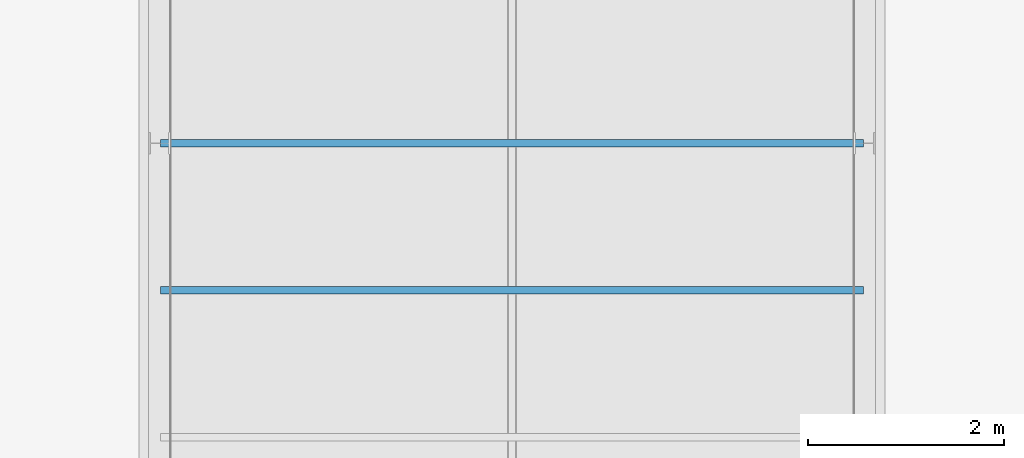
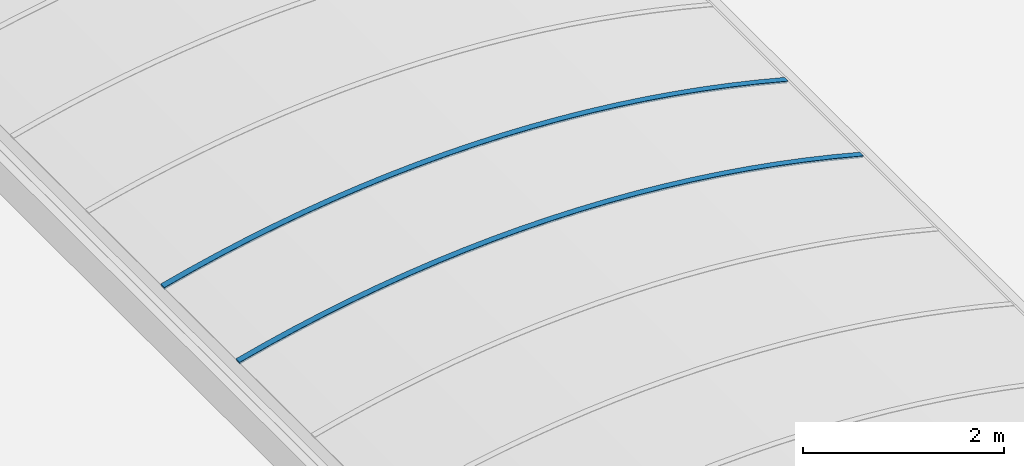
# One storey, part 54 of 81: 2 beams.
"""IFC2X3 building model written with IfcOpenShell, lengths in millimetres."""

from ifc_helpers import new_model, entity, si_unit, converted_unit, derived_unit, money_unit, direction, frame, origin_with_axes, place, context, subcontext, project, spatial, faceted_brep, material, material_list, type_object, element, save


model = new_model("IFC2X3")

# Units and contexts
model_context = context("Model", 3, precision=0.01, world=origin_with_axes(), true_north=direction((0.0, 1.0)))
body_context = subcontext(model_context, "Body", "Model", "MODEL_VIEW")
ifc_project = project(units=[si_unit("LENGTHUNIT", "METRE", prefix="MILLI"), si_unit("AREAUNIT", "SQUARE_METRE"), si_unit("VOLUMEUNIT", "CUBIC_METRE"), converted_unit("PLANEANGLEUNIT", "DEGREE", entity("IfcPlaneAngleMeasure", 0.0174532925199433), si_unit("PLANEANGLEUNIT", "RADIAN"), dimensions=[0, 0, 0, 0, 0, 0, 0]), money_unit("EUR"), converted_unit("TIMEUNIT", "Year", entity("IfcTimeMeasure", 31557600.0), si_unit("TIMEUNIT", "SECOND"), dimensions=[0, 0, 1, 0, 0, 0, 0]), si_unit("MASSUNIT", "GRAM", prefix="KILO"), si_unit("THERMODYNAMICTEMPERATUREUNIT", "DEGREE_CELSIUS"), si_unit("LUMINOUSINTENSITYUNIT", "LUMEN"), si_unit("ENERGYUNIT", "JOULE", prefix="MEGA"), derived_unit("THERMALCONDUCTANCEUNIT", [(si_unit("POWERUNIT", "WATT"), 1), (si_unit("LENGTHUNIT", "METRE"), -1), (si_unit("THERMODYNAMICTEMPERATUREUNIT", "KELVIN"), -1)]), derived_unit("SPECIFICHEATCAPACITYUNIT", [(si_unit("ENERGYUNIT", "JOULE"), 1), (si_unit("MASSUNIT", "GRAM", prefix="KILO"), -1), (si_unit("THERMODYNAMICTEMPERATUREUNIT", "KELVIN"), -1)]), derived_unit("MASSDENSITYUNIT", [(si_unit("MASSUNIT", "GRAM", prefix="KILO"), 1), (si_unit("VOLUMEUNIT", "CUBIC_METRE"), -1)])], contexts=[model_context])

# Site, building, storey
site_placement = place(None, origin_with_axes())
site = spatial("IfcSite", under=ifc_project, at=site_placement, Name="Site", CompositionType="ELEMENT")
building_placement = place(site_placement, origin_with_axes())
building = spatial("IfcBuilding", under=site, at=building_placement, Name="Naam gebouw", CompositionType="ELEMENT")
storey_placement = place(building_placement, frame((0.0, 0.0, 15320.0), z_axis=(0.0, 0.0, 1.0), x_axis=(1.0, 0.0, 0.0)))
storey = spatial("IfcBuildingStorey", under=building, at=storey_placement, Name="01 dak", CompositionType="ELEMENT", Elevation=15320.0)

# Beams
ifc_material = material(Name="Metaal - Aluminium AFW")
ifc_material_list = material_list([ifc_material, ifc_material])
beam_type = type_object("IfcBeamType", Name="lichtstraat polycarbonaat (constructie) 7420 x 670", PredefinedType="BEAM")
beam_1_placement = place(storey_placement, frame((105300.0, 76362.50000000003, 559.9999999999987), z_axis=(0.0, 0.0, 1.0), x_axis=(1.0, 0.0, 0.0)))
element("IfcBeam", 1, at=beam_1_placement, inside=storey, type_object=beam_type, material=ifc_material_list, Name="Plafondafwerking 3", ObjectType="BEAM", context=body_context, shape_type="Brep", body=[
    faceted_brep([(-3532.999999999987, 75.00000000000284, 192.1385480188), (-3532.999999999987, 0.0, 192.1385480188), (-3582.999999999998, 0.0, 179.000000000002), (-3582.999999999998, 75.00000000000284, 179.000000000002), (-3527.999999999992, 75.00000000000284, 193.4415530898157), (-3527.999999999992, 0.0, 193.4415530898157), (-2943.44844329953, 0.0, 337.3385317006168), (-3264.746952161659, 0.0, 264.2761146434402), (-3584.237010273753, 0.0, 183.6724462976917), (-3213.32287812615, 0.0, 271.5053933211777), (-2896.922437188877, 0.0, 342.2614189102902), (-2578.96836412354, 0.0, 405.6716830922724), (-2259.631179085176, 0.0, 461.7021786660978), (-1939.082143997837, 0.0, 510.3228562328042), (-1617.493170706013, 0.0, 551.5076403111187), (-1295.036728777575, 0.0, 585.2344433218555), (-971.8857530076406, 0.0, 611.485177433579), (-648.2135506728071, 0.0, 630.2457642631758), (-324.1937085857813, 0.0, 641.5061424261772), (0.0, 0.0, 645.2602729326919), (324.1937085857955, 0.0, 641.5061424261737), (648.2135506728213, 0.0, 630.2457642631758), (971.8857530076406, 0.0, 611.4851774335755), (1295.036728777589, 0.0, 585.2344433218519), (1617.493170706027, 0.0, 551.5076403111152), (1939.082143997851, 0.0, 510.3228562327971), (2259.63117908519, 0.0, 461.7021786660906), (2578.96836412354, 0.0, 405.6716830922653), (2896.922437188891, 0.0, 342.2614189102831), (3213.322878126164, 0.0, 271.5053933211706), (3528.000000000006, 0.0, 193.4415530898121), (3528.000000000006, 0.0, 194.0000000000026), (3533.000000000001, 0.0, 194.0000000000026), (3533.000000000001, 0.0, 192.1385480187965), (3582.999999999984, 0.0, 179.000000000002), (3584.237010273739, 0.0, 183.6724462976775), (3264.746952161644, 0.0, 264.2761146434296), (2943.448443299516, 0.0, 337.3385317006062), (2620.51946150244, 0.0, 402.8192257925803), (2296.138887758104, 0.0, 460.6819250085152), (1970.486407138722, 0.0, 510.8945772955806), (1643.742409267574, 0.0, 553.4293682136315), (1316.087888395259, 0.0, 588.2627363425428), (987.7043431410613, 0.0, 615.3753863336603), (658.7736759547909, 0.0, 634.7522995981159), (329.4780923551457, 0.0, 646.3827426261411), (0.0, 0.0, 650.2602729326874), (-329.4780923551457, 0.0, 646.3827426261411), (-658.7736759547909, 0.0, 634.7522995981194), (-987.7043431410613, 0.0, 615.375386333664), (-1316.087888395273, 0.0, 588.2627363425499), (-1643.742409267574, 0.0, 553.4293682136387), (-1970.486407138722, 0.0, 510.8945772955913), (-2296.138887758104, 0.0, 460.6819250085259), (-2620.519461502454, 0.0, 402.8192257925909), (-3584.237010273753, 75.00000000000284, 183.6724462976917), (-3213.32287812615, 75.00000000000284, 271.5053933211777), (-3264.746952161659, 75.00000000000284, 264.2761146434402), (-2943.44844329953, 75.00000000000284, 337.3385317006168), (-2620.519461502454, 75.00000000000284, 402.8192257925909), (-2296.138887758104, 75.00000000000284, 460.6819250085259), (-1970.486407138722, 75.00000000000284, 510.8945772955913), (-1643.742409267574, 75.00000000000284, 553.4293682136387), (-1316.087888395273, 75.00000000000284, 588.2627363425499), (-987.7043431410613, 75.00000000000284, 615.375386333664), (-658.7736759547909, 75.00000000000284, 634.7522995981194), (-329.4780923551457, 75.00000000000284, 646.3827426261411), (0.0, 75.00000000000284, 650.2602729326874), (329.4780923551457, 75.00000000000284, 646.3827426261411), (658.7736759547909, 75.00000000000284, 634.7522995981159), (987.7043431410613, 75.00000000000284, 615.3753863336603), (1316.087888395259, 75.00000000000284, 588.2627363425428), (1643.742409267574, 75.00000000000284, 553.4293682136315), (1970.486407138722, 75.00000000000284, 510.8945772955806), (2296.138887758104, 75.00000000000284, 460.6819250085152), (2620.51946150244, 75.00000000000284, 402.8192257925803), (2943.448443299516, 75.00000000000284, 337.3385317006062), (3264.746952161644, 75.00000000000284, 264.2761146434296), (3584.237010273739, 75.00000000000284, 183.6724462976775), (3582.999999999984, 75.00000000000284, 179.000000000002), (3533.000000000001, 75.00000000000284, 192.1385480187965), (3533.000000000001, 75.00000000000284, 194.0000000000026), (3528.000000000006, 75.00000000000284, 194.0000000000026), (3528.000000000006, 75.00000000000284, 193.4415530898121), (3213.322878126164, 75.00000000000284, 271.5053933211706), (2896.922437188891, 75.00000000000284, 342.2614189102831), (2578.96836412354, 75.00000000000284, 405.6716830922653), (2259.63117908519, 75.00000000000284, 461.7021786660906), (1939.082143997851, 75.00000000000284, 510.3228562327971), (1617.493170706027, 75.00000000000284, 551.5076403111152), (1295.036728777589, 75.00000000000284, 585.2344433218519), (971.8857530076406, 75.00000000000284, 611.4851774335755), (648.2135506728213, 75.00000000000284, 630.2457642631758), (324.1937085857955, 75.00000000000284, 641.5061424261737), (0.0, 75.00000000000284, 645.2602729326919), (-324.1937085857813, 75.00000000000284, 641.5061424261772), (-648.2135506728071, 75.00000000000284, 630.2457642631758), (-971.8857530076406, 75.00000000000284, 611.485177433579), (-1295.036728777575, 75.00000000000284, 585.2344433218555), (-1617.493170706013, 75.00000000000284, 551.5076403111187), (-1939.082143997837, 75.00000000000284, 510.3228562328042), (-2259.631179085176, 75.00000000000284, 461.7021786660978), (-2578.96836412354, 75.00000000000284, 405.6716830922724), (-2896.922437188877, 75.00000000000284, 342.2614189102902)], [[[0, 1, 2, 3]], [[4, 5, 1, 0]], [[6, 7, 8, 2, 1, 5, 9, 10, 11, 12, 13, 14, 15, 16, 17, 18, 19, 20, 21, 22, 23, 24, 25, 26, 27, 28, 29, 30, 31, 32, 33, 34, 35, 36, 37, 38, 39, 40, 41, 42, 43, 44, 45, 46, 47, 48, 49, 50, 51, 52, 53, 54]], [[3, 2, 8, 55]], [[56, 4, 0, 3, 55, 57, 58, 59, 60, 61, 62, 63, 64, 65, 66, 67, 68, 69, 70, 71, 72, 73, 74, 75, 76, 77, 78, 79, 80, 81, 82, 83, 84, 85, 86, 87, 88, 89, 90, 91, 92, 93, 94, 95, 96, 97, 98, 99, 100, 101, 102, 103]], [[56, 9, 5, 4]], [[57, 7, 6, 58]], [[55, 8, 7, 57]], [[103, 10, 9, 56]], [[102, 11, 10, 103]], [[101, 12, 11, 102]], [[100, 13, 12, 101]], [[99, 14, 13, 100]], [[98, 15, 14, 99]], [[97, 16, 15, 98]], [[96, 17, 16, 97]], [[95, 18, 17, 96]], [[94, 19, 18, 95]], [[93, 20, 19, 94]], [[92, 21, 20, 93]], [[91, 22, 21, 92]], [[90, 23, 22, 91]], [[89, 24, 23, 90]], [[88, 25, 24, 89]], [[87, 26, 25, 88]], [[86, 27, 26, 87]], [[85, 28, 27, 86]], [[84, 29, 28, 85]], [[83, 30, 29, 84]], [[82, 31, 30, 83]], [[81, 32, 31, 82]], [[80, 33, 32, 81]], [[79, 34, 33, 80]], [[78, 35, 34, 79]], [[77, 36, 35, 78]], [[76, 37, 36, 77]], [[75, 38, 37, 76]], [[74, 39, 38, 75]], [[73, 40, 39, 74]], [[72, 41, 40, 73]], [[71, 42, 41, 72]], [[70, 43, 42, 71]], [[69, 44, 43, 70]], [[68, 45, 44, 69]], [[67, 46, 45, 68]], [[66, 47, 46, 67]], [[65, 48, 47, 66]], [[64, 49, 48, 65]], [[63, 50, 49, 64]], [[62, 51, 50, 63]], [[61, 52, 51, 62]], [[60, 53, 52, 61]], [[59, 54, 53, 60]], [[58, 6, 54, 59]]]),
    faceted_brep([(3269.271727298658, 75.00000000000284, 283.190243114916), (2947.542627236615, 75.00000000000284, 356.4574241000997), (2947.542627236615, 0.0, 356.4574241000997), (3269.271727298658, 0.0, 283.190243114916), (3589.184752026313, 75.00000000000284, 202.3611008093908), (3587.947861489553, 75.00000000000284, 197.6891067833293), (3528.000000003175, 75.00000000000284, 213.4415530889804), (3213.322878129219, 75.00000000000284, 291.505393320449), (2896.922437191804, 75.00000000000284, 362.2614189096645), (2578.968364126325, 75.00000000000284, 425.6716830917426), (2259.631179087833, 75.00000000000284, 481.7021786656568), (1939.082144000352, 75.00000000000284, 530.3228562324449), (1617.493170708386, 75.00000000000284, 571.5076403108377), (1295.036728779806, 75.00000000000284, 605.2344433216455), (971.8857530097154, 75.00000000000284, 631.4851774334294), (648.2135506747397, 75.00000000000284, 650.2457642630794), (324.1937085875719, 75.00000000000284, 661.5061424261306), (1.63424829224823e-09, 75.00000000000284, 665.2602729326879), (-324.1937085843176, 75.00000000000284, 661.5061424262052), (-648.2135506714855, 75.00000000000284, 650.2457642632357), (-971.8857530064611, 75.00000000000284, 631.4851774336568), (-1295.036728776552, 75.00000000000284, 605.2344433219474), (-1617.493170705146, 75.00000000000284, 571.5076403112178), (-1939.082143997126, 75.00000000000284, 530.3228562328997), (-2259.631179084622, 75.00000000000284, 481.7021786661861), (-2578.968364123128, 75.00000000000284, 425.6716830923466), (-2896.922437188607, 75.00000000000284, 362.2614189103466), (-3213.322878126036, 75.00000000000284, 291.5053933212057), (-3528.00000000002, 75.00000000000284, 213.4415530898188), (-3533.000000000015, 75.00000000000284, 212.1385480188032), (-3587.947861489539, 75.00000000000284, 197.6891067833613), (-3589.184752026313, 75.00000000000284, 202.3611008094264), (-3269.271727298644, 75.00000000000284, 283.1902431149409), (-2947.542627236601, 75.00000000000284, 356.4574241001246), (-2624.176171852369, 75.00000000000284, 422.1219439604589), (-2299.351990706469, 75.00000000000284, 480.1473261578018), (-1973.250523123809, 75.00000000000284, 530.5013376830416), (-1646.052917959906, 75.00000000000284, 573.156006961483), (-1317.940932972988, 75.00000000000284, 608.0876393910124), (-989.0968338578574, 75.00000000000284, 635.2768305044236), (-659.7032929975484, 75.00000000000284, 654.7084767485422), (-329.9432879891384, 75.00000000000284, 666.3717838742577), (0.0, 75.00000000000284, 670.2602729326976), (329.9432879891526, 75.00000000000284, 666.3717838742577), (659.7032929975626, 75.00000000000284, 654.7084767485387), (989.0968338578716, 75.00000000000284, 635.2768305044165), (1317.940932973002, 75.00000000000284, 608.0876393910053), (1646.052917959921, 75.00000000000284, 573.1560069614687), (1973.250523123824, 75.00000000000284, 530.5013376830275), (2299.351990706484, 75.00000000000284, 480.147326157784), (2624.176171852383, 75.00000000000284, 422.1219439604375), (2624.176171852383, 0.0, 422.1219439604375), (2299.351990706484, 0.0, 480.147326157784), (1973.250523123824, 0.0, 530.5013376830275), (1646.052917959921, 0.0, 573.1560069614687), (1317.940932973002, 0.0, 608.0876393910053), (989.0968338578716, 0.0, 635.2768305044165), (659.7032929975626, 0.0, 654.7084767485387), (329.9432879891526, 0.0, 666.3717838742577), (0.0, 0.0, 670.2602729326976), (-329.9432879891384, 0.0, 666.3717838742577), (-659.7032929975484, 0.0, 654.7084767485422), (-989.0968338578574, 0.0, 635.2768305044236), (-1317.940932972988, 0.0, 608.0876393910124), (-1646.052917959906, 0.0, 573.156006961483), (-1973.250523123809, 0.0, 530.5013376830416), (-2299.351990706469, 0.0, 480.1473261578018), (-2624.176171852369, 0.0, 422.1219439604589), (-2947.542627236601, 0.0, 356.4574241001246), (-3269.271727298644, 0.0, 283.1902431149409), (-3589.184752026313, 0.0, 202.3611008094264), (-3587.947861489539, 0.0, 197.6891067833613), (-3533.000000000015, 0.0, 212.1385480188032), (-3528.00000000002, 0.0, 213.4415530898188), (-3213.322878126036, 0.0, 291.5053933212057), (-2896.922437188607, 0.0, 362.2614189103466), (-2578.968364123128, 0.0, 425.6716830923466), (-2259.631179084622, 0.0, 481.7021786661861), (-1939.082143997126, 0.0, 530.3228562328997), (-1617.493170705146, 0.0, 571.5076403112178), (-1295.036728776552, 0.0, 605.2344433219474), (-971.8857530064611, 0.0, 631.4851774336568), (-648.2135506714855, 0.0, 650.2457642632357), (-324.1937085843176, 0.0, 661.5061424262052), (1.63424829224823e-09, 0.0, 665.2602729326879), (324.1937085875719, 0.0, 661.5061424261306), (648.2135506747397, 0.0, 650.2457642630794), (971.8857530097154, 0.0, 631.4851774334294), (1295.036728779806, 0.0, 605.2344433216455), (1617.493170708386, 0.0, 571.5076403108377), (1939.082144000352, 0.0, 530.3228562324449), (2259.631179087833, 0.0, 481.7021786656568), (2578.968364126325, 0.0, 425.6716830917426), (2896.922437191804, 0.0, 362.2614189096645), (3213.322878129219, 0.0, 291.505393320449), (3528.000000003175, 0.0, 213.4415530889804), (3587.947861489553, 0.0, 197.6891067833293), (3589.184752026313, 0.0, 202.3611008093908)], [[[0, 1, 2, 3]], [[0, 4, 5, 6, 7, 8, 9, 10, 11, 12, 13, 14, 15, 16, 17, 18, 19, 20, 21, 22, 23, 24, 25, 26, 27, 28, 29, 30, 31, 32, 33, 34, 35, 36, 37, 38, 39, 40, 41, 42, 43, 44, 45, 46, 47, 48, 49, 50, 1]], [[1, 50, 51, 2]], [[3, 2, 51, 52, 53, 54, 55, 56, 57, 58, 59, 60, 61, 62, 63, 64, 65, 66, 67, 68, 69, 70, 71, 72, 73, 74, 75, 76, 77, 78, 79, 80, 81, 82, 83, 84, 85, 86, 87, 88, 89, 90, 91, 92, 93, 94, 95, 96, 97]], [[4, 0, 3, 97]], [[5, 4, 97, 96]], [[6, 5, 96, 95]], [[7, 6, 95, 94]], [[8, 7, 94, 93]], [[9, 8, 93, 92]], [[10, 9, 92, 91]], [[11, 10, 91, 90]], [[12, 11, 90, 89]], [[13, 12, 89, 88]], [[14, 13, 88, 87]], [[15, 14, 87, 86]], [[16, 15, 86, 85]], [[17, 16, 85, 84]], [[18, 17, 84, 83]], [[19, 18, 83, 82]], [[20, 19, 82, 81]], [[21, 20, 81, 80]], [[22, 21, 80, 79]], [[23, 22, 79, 78]], [[24, 23, 78, 77]], [[25, 24, 77, 76]], [[26, 25, 76, 75]], [[27, 26, 75, 74]], [[28, 27, 74, 73]], [[29, 28, 73, 72]], [[30, 29, 72, 71]], [[31, 30, 71, 70]], [[32, 31, 70, 69]], [[33, 32, 69, 68]], [[34, 33, 68, 67]], [[35, 34, 67, 66]], [[36, 35, 66, 65]], [[37, 36, 65, 64]], [[38, 37, 64, 63]], [[39, 38, 63, 62]], [[40, 39, 62, 61]], [[41, 40, 61, 60]], [[42, 41, 60, 59]], [[43, 42, 59, 58]], [[44, 43, 58, 57]], [[45, 44, 57, 56]], [[46, 45, 56, 55]], [[47, 46, 55, 54]], [[48, 47, 54, 53]], [[49, 48, 53, 52]], [[50, 49, 52, 51]]]),
])
beam_2_placement = place(storey_placement, frame((105300.0, 74862.50000000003, 559.9999999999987), z_axis=(0.0, 0.0, 1.0), x_axis=(1.0, 0.0, 0.0)))
element("IfcBeam", 2, at=beam_2_placement, inside=storey, type_object=beam_type, material=ifc_material_list, Name="Plafondafwerking 3", ObjectType="BEAM", context=body_context, shape_type="Brep", body=[
    faceted_brep([(-3532.999999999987, 75.00000000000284, 192.1385480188), (-3532.999999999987, 0.0, 192.1385480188), (-3582.999999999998, 0.0, 179.000000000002), (-3582.999999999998, 75.00000000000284, 179.000000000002), (-3527.999999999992, 75.00000000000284, 193.4415530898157), (-3527.999999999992, 0.0, 193.4415530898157), (-2943.44844329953, 0.0, 337.3385317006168), (-3264.746952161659, 0.0, 264.2761146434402), (-3584.237010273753, 0.0, 183.6724462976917), (-3213.32287812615, 0.0, 271.5053933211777), (-2896.922437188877, 0.0, 342.2614189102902), (-2578.96836412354, 0.0, 405.6716830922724), (-2259.631179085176, 0.0, 461.7021786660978), (-1939.082143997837, 0.0, 510.3228562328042), (-1617.493170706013, 0.0, 551.5076403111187), (-1295.036728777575, 0.0, 585.2344433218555), (-971.8857530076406, 0.0, 611.485177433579), (-648.2135506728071, 0.0, 630.2457642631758), (-324.1937085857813, 0.0, 641.5061424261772), (0.0, 0.0, 645.2602729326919), (324.1937085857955, 0.0, 641.5061424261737), (648.2135506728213, 0.0, 630.2457642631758), (971.8857530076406, 0.0, 611.4851774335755), (1295.036728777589, 0.0, 585.2344433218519), (1617.493170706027, 0.0, 551.5076403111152), (1939.082143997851, 0.0, 510.3228562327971), (2259.63117908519, 0.0, 461.7021786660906), (2578.96836412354, 0.0, 405.6716830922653), (2896.922437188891, 0.0, 342.2614189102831), (3213.322878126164, 0.0, 271.5053933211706), (3528.000000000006, 0.0, 193.4415530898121), (3528.000000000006, 0.0, 194.0000000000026), (3533.000000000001, 0.0, 194.0000000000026), (3533.000000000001, 0.0, 192.1385480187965), (3582.999999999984, 0.0, 179.000000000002), (3584.237010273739, 0.0, 183.6724462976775), (3264.746952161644, 0.0, 264.2761146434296), (2943.448443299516, 0.0, 337.3385317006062), (2620.51946150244, 0.0, 402.8192257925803), (2296.138887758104, 0.0, 460.6819250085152), (1970.486407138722, 0.0, 510.8945772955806), (1643.742409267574, 0.0, 553.4293682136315), (1316.087888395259, 0.0, 588.2627363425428), (987.7043431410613, 0.0, 615.3753863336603), (658.7736759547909, 0.0, 634.7522995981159), (329.4780923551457, 0.0, 646.3827426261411), (0.0, 0.0, 650.2602729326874), (-329.4780923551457, 0.0, 646.3827426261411), (-658.7736759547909, 0.0, 634.7522995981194), (-987.7043431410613, 0.0, 615.375386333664), (-1316.087888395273, 0.0, 588.2627363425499), (-1643.742409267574, 0.0, 553.4293682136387), (-1970.486407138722, 0.0, 510.8945772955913), (-2296.138887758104, 0.0, 460.6819250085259), (-2620.519461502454, 0.0, 402.8192257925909), (-3584.237010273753, 75.00000000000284, 183.6724462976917), (-3213.32287812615, 75.00000000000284, 271.5053933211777), (-3264.746952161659, 75.00000000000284, 264.2761146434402), (-2943.44844329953, 75.00000000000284, 337.3385317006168), (-2620.519461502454, 75.00000000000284, 402.8192257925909), (-2296.138887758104, 75.00000000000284, 460.6819250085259), (-1970.486407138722, 75.00000000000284, 510.8945772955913), (-1643.742409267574, 75.00000000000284, 553.4293682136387), (-1316.087888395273, 75.00000000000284, 588.2627363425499), (-987.7043431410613, 75.00000000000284, 615.375386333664), (-658.7736759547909, 75.00000000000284, 634.7522995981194), (-329.4780923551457, 75.00000000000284, 646.3827426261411), (0.0, 75.00000000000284, 650.2602729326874), (329.4780923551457, 75.00000000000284, 646.3827426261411), (658.7736759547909, 75.00000000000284, 634.7522995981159), (987.7043431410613, 75.00000000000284, 615.3753863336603), (1316.087888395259, 75.00000000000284, 588.2627363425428), (1643.742409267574, 75.00000000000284, 553.4293682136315), (1970.486407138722, 75.00000000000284, 510.8945772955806), (2296.138887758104, 75.00000000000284, 460.6819250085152), (2620.51946150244, 75.00000000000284, 402.8192257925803), (2943.448443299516, 75.00000000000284, 337.3385317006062), (3264.746952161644, 75.00000000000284, 264.2761146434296), (3584.237010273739, 75.00000000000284, 183.6724462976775), (3582.999999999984, 75.00000000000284, 179.000000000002), (3533.000000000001, 75.00000000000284, 192.1385480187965), (3533.000000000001, 75.00000000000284, 194.0000000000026), (3528.000000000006, 75.00000000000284, 194.0000000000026), (3528.000000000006, 75.00000000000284, 193.4415530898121), (3213.322878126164, 75.00000000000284, 271.5053933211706), (2896.922437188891, 75.00000000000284, 342.2614189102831), (2578.96836412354, 75.00000000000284, 405.6716830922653), (2259.63117908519, 75.00000000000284, 461.7021786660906), (1939.082143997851, 75.00000000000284, 510.3228562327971), (1617.493170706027, 75.00000000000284, 551.5076403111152), (1295.036728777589, 75.00000000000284, 585.2344433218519), (971.8857530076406, 75.00000000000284, 611.4851774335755), (648.2135506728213, 75.00000000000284, 630.2457642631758), (324.1937085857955, 75.00000000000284, 641.5061424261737), (0.0, 75.00000000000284, 645.2602729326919), (-324.1937085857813, 75.00000000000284, 641.5061424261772), (-648.2135506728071, 75.00000000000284, 630.2457642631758), (-971.8857530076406, 75.00000000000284, 611.485177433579), (-1295.036728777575, 75.00000000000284, 585.2344433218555), (-1617.493170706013, 75.00000000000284, 551.5076403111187), (-1939.082143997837, 75.00000000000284, 510.3228562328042), (-2259.631179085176, 75.00000000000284, 461.7021786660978), (-2578.96836412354, 75.00000000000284, 405.6716830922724), (-2896.922437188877, 75.00000000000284, 342.2614189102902)], [[[0, 1, 2, 3]], [[4, 5, 1, 0]], [[6, 7, 8, 2, 1, 5, 9, 10, 11, 12, 13, 14, 15, 16, 17, 18, 19, 20, 21, 22, 23, 24, 25, 26, 27, 28, 29, 30, 31, 32, 33, 34, 35, 36, 37, 38, 39, 40, 41, 42, 43, 44, 45, 46, 47, 48, 49, 50, 51, 52, 53, 54]], [[3, 2, 8, 55]], [[56, 4, 0, 3, 55, 57, 58, 59, 60, 61, 62, 63, 64, 65, 66, 67, 68, 69, 70, 71, 72, 73, 74, 75, 76, 77, 78, 79, 80, 81, 82, 83, 84, 85, 86, 87, 88, 89, 90, 91, 92, 93, 94, 95, 96, 97, 98, 99, 100, 101, 102, 103]], [[56, 9, 5, 4]], [[57, 7, 6, 58]], [[55, 8, 7, 57]], [[103, 10, 9, 56]], [[102, 11, 10, 103]], [[101, 12, 11, 102]], [[100, 13, 12, 101]], [[99, 14, 13, 100]], [[98, 15, 14, 99]], [[97, 16, 15, 98]], [[96, 17, 16, 97]], [[95, 18, 17, 96]], [[94, 19, 18, 95]], [[93, 20, 19, 94]], [[92, 21, 20, 93]], [[91, 22, 21, 92]], [[90, 23, 22, 91]], [[89, 24, 23, 90]], [[88, 25, 24, 89]], [[87, 26, 25, 88]], [[86, 27, 26, 87]], [[85, 28, 27, 86]], [[84, 29, 28, 85]], [[83, 30, 29, 84]], [[82, 31, 30, 83]], [[81, 32, 31, 82]], [[80, 33, 32, 81]], [[79, 34, 33, 80]], [[78, 35, 34, 79]], [[77, 36, 35, 78]], [[76, 37, 36, 77]], [[75, 38, 37, 76]], [[74, 39, 38, 75]], [[73, 40, 39, 74]], [[72, 41, 40, 73]], [[71, 42, 41, 72]], [[70, 43, 42, 71]], [[69, 44, 43, 70]], [[68, 45, 44, 69]], [[67, 46, 45, 68]], [[66, 47, 46, 67]], [[65, 48, 47, 66]], [[64, 49, 48, 65]], [[63, 50, 49, 64]], [[62, 51, 50, 63]], [[61, 52, 51, 62]], [[60, 53, 52, 61]], [[59, 54, 53, 60]], [[58, 6, 54, 59]]]),
    faceted_brep([(3269.271727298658, 75.00000000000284, 283.190243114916), (2947.542627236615, 75.00000000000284, 356.4574241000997), (2947.542627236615, 0.0, 356.4574241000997), (3269.271727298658, 0.0, 283.190243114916), (3589.184752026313, 75.00000000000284, 202.3611008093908), (3587.947861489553, 75.00000000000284, 197.6891067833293), (3528.000000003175, 75.00000000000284, 213.4415530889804), (3213.322878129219, 75.00000000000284, 291.505393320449), (2896.922437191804, 75.00000000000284, 362.2614189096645), (2578.968364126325, 75.00000000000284, 425.6716830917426), (2259.631179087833, 75.00000000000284, 481.7021786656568), (1939.082144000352, 75.00000000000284, 530.3228562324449), (1617.493170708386, 75.00000000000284, 571.5076403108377), (1295.036728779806, 75.00000000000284, 605.2344433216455), (971.8857530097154, 75.00000000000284, 631.4851774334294), (648.2135506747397, 75.00000000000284, 650.2457642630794), (324.1937085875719, 75.00000000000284, 661.5061424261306), (1.63424829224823e-09, 75.00000000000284, 665.2602729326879), (-324.1937085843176, 75.00000000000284, 661.5061424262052), (-648.2135506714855, 75.00000000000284, 650.2457642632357), (-971.8857530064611, 75.00000000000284, 631.4851774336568), (-1295.036728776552, 75.00000000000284, 605.2344433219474), (-1617.493170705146, 75.00000000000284, 571.5076403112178), (-1939.082143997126, 75.00000000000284, 530.3228562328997), (-2259.631179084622, 75.00000000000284, 481.7021786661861), (-2578.968364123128, 75.00000000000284, 425.6716830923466), (-2896.922437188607, 75.00000000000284, 362.2614189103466), (-3213.322878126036, 75.00000000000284, 291.5053933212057), (-3528.00000000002, 75.00000000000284, 213.4415530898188), (-3533.000000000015, 75.00000000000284, 212.1385480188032), (-3587.947861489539, 75.00000000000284, 197.6891067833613), (-3589.184752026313, 75.00000000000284, 202.3611008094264), (-3269.271727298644, 75.00000000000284, 283.1902431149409), (-2947.542627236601, 75.00000000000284, 356.4574241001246), (-2624.176171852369, 75.00000000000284, 422.1219439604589), (-2299.351990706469, 75.00000000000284, 480.1473261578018), (-1973.250523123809, 75.00000000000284, 530.5013376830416), (-1646.052917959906, 75.00000000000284, 573.156006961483), (-1317.940932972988, 75.00000000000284, 608.0876393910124), (-989.0968338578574, 75.00000000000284, 635.2768305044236), (-659.7032929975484, 75.00000000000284, 654.7084767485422), (-329.9432879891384, 75.00000000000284, 666.3717838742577), (0.0, 75.00000000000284, 670.2602729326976), (329.9432879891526, 75.00000000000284, 666.3717838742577), (659.7032929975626, 75.00000000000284, 654.7084767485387), (989.0968338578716, 75.00000000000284, 635.2768305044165), (1317.940932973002, 75.00000000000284, 608.0876393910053), (1646.052917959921, 75.00000000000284, 573.1560069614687), (1973.250523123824, 75.00000000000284, 530.5013376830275), (2299.351990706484, 75.00000000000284, 480.147326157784), (2624.176171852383, 75.00000000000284, 422.1219439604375), (2624.176171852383, 0.0, 422.1219439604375), (2299.351990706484, 0.0, 480.147326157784), (1973.250523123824, 0.0, 530.5013376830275), (1646.052917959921, 0.0, 573.1560069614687), (1317.940932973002, 0.0, 608.0876393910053), (989.0968338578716, 0.0, 635.2768305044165), (659.7032929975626, 0.0, 654.7084767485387), (329.9432879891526, 0.0, 666.3717838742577), (0.0, 0.0, 670.2602729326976), (-329.9432879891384, 0.0, 666.3717838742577), (-659.7032929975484, 0.0, 654.7084767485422), (-989.0968338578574, 0.0, 635.2768305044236), (-1317.940932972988, 0.0, 608.0876393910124), (-1646.052917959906, 0.0, 573.156006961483), (-1973.250523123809, 0.0, 530.5013376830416), (-2299.351990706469, 0.0, 480.1473261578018), (-2624.176171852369, 0.0, 422.1219439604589), (-2947.542627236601, 0.0, 356.4574241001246), (-3269.271727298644, 0.0, 283.1902431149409), (-3589.184752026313, 0.0, 202.3611008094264), (-3587.947861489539, 0.0, 197.6891067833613), (-3533.000000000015, 0.0, 212.1385480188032), (-3528.00000000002, 0.0, 213.4415530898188), (-3213.322878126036, 0.0, 291.5053933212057), (-2896.922437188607, 0.0, 362.2614189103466), (-2578.968364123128, 0.0, 425.6716830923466), (-2259.631179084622, 0.0, 481.7021786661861), (-1939.082143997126, 0.0, 530.3228562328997), (-1617.493170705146, 0.0, 571.5076403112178), (-1295.036728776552, 0.0, 605.2344433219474), (-971.8857530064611, 0.0, 631.4851774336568), (-648.2135506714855, 0.0, 650.2457642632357), (-324.1937085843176, 0.0, 661.5061424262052), (1.63424829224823e-09, 0.0, 665.2602729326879), (324.1937085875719, 0.0, 661.5061424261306), (648.2135506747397, 0.0, 650.2457642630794), (971.8857530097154, 0.0, 631.4851774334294), (1295.036728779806, 0.0, 605.2344433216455), (1617.493170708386, 0.0, 571.5076403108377), (1939.082144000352, 0.0, 530.3228562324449), (2259.631179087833, 0.0, 481.7021786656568), (2578.968364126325, 0.0, 425.6716830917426), (2896.922437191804, 0.0, 362.2614189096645), (3213.322878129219, 0.0, 291.505393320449), (3528.000000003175, 0.0, 213.4415530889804), (3587.947861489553, 0.0, 197.6891067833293), (3589.184752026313, 0.0, 202.3611008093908)], [[[0, 1, 2, 3]], [[0, 4, 5, 6, 7, 8, 9, 10, 11, 12, 13, 14, 15, 16, 17, 18, 19, 20, 21, 22, 23, 24, 25, 26, 27, 28, 29, 30, 31, 32, 33, 34, 35, 36, 37, 38, 39, 40, 41, 42, 43, 44, 45, 46, 47, 48, 49, 50, 1]], [[1, 50, 51, 2]], [[3, 2, 51, 52, 53, 54, 55, 56, 57, 58, 59, 60, 61, 62, 63, 64, 65, 66, 67, 68, 69, 70, 71, 72, 73, 74, 75, 76, 77, 78, 79, 80, 81, 82, 83, 84, 85, 86, 87, 88, 89, 90, 91, 92, 93, 94, 95, 96, 97]], [[4, 0, 3, 97]], [[5, 4, 97, 96]], [[6, 5, 96, 95]], [[7, 6, 95, 94]], [[8, 7, 94, 93]], [[9, 8, 93, 92]], [[10, 9, 92, 91]], [[11, 10, 91, 90]], [[12, 11, 90, 89]], [[13, 12, 89, 88]], [[14, 13, 88, 87]], [[15, 14, 87, 86]], [[16, 15, 86, 85]], [[17, 16, 85, 84]], [[18, 17, 84, 83]], [[19, 18, 83, 82]], [[20, 19, 82, 81]], [[21, 20, 81, 80]], [[22, 21, 80, 79]], [[23, 22, 79, 78]], [[24, 23, 78, 77]], [[25, 24, 77, 76]], [[26, 25, 76, 75]], [[27, 26, 75, 74]], [[28, 27, 74, 73]], [[29, 28, 73, 72]], [[30, 29, 72, 71]], [[31, 30, 71, 70]], [[32, 31, 70, 69]], [[33, 32, 69, 68]], [[34, 33, 68, 67]], [[35, 34, 67, 66]], [[36, 35, 66, 65]], [[37, 36, 65, 64]], [[38, 37, 64, 63]], [[39, 38, 63, 62]], [[40, 39, 62, 61]], [[41, 40, 61, 60]], [[42, 41, 60, 59]], [[43, 42, 59, 58]], [[44, 43, 58, 57]], [[45, 44, 57, 56]], [[46, 45, 56, 55]], [[47, 46, 55, 54]], [[48, 47, 54, 53]], [[49, 48, 53, 52]], [[50, 49, 52, 51]]]),
])

save(model, "model.ifc")
